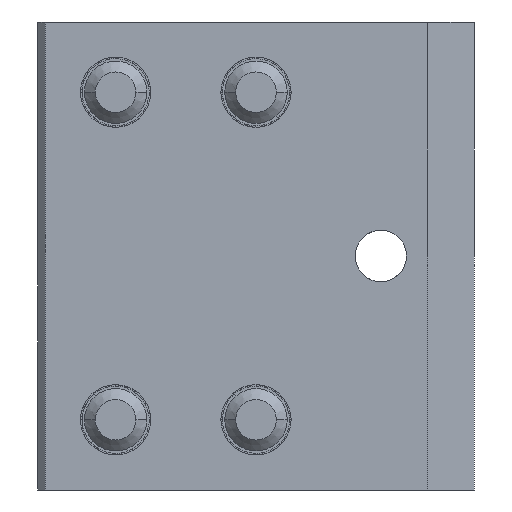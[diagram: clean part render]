
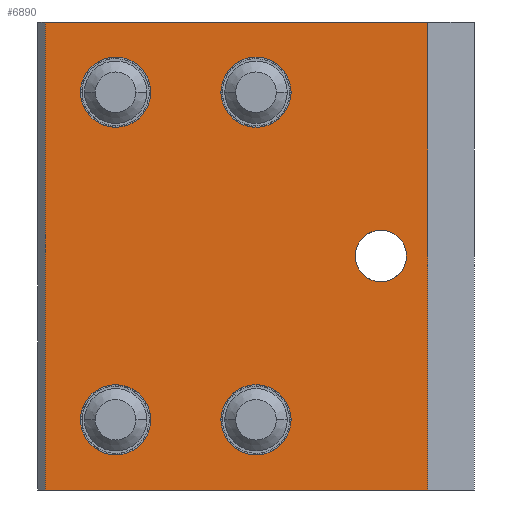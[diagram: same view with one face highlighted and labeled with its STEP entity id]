
A CAD part, front view. The second image highlights one B-rep face of the part: STEP entity #6890.
In plain terms, the highlighted planar face has unit normal (0, -1, 0).
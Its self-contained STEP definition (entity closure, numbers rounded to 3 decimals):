
#424 = CARTESIAN_POINT ( 'NONE',  ( -4.012, 4.412, -8.25 ) ) ;
#521 = EDGE_CURVE ( 'NONE', #16177, #26539, #20379, .T. ) ;
#741 = CARTESIAN_POINT ( 'NONE',  ( -13.012, 4.412, -10.5 ) ) ;
#989 = VECTOR ( 'NONE', #16773, 1000. ) ;
#1461 = FACE_OUTER_BOUND ( 'NONE', #7662, .T. ) ;
#1767 = LINE ( 'NONE', #28616, #6606 ) ;
#2053 = AXIS2_PLACEMENT_3D ( 'NONE', #29931, #12635, #2739 ) ;
#2434 = VECTOR ( 'NONE', #26636, 1000. ) ;
#2739 = DIRECTION ( 'NONE',  ( 0., 0., 1. ) ) ;
#2760 = CARTESIAN_POINT ( 'NONE',  ( -5.262, 4.412, 15. ) ) ;
#3073 = EDGE_CURVE ( 'NONE', #26539, #16177, #32415, .T. ) ;
#3137 = ORIENTED_EDGE ( 'NONE', *, *, #12846, .F. ) ;
#3138 = ORIENTED_EDGE ( 'NONE', *, *, #5712, .F. ) ;
#3328 = CIRCLE ( 'NONE', #24666, 1.65 ) ;
#4116 = DIRECTION ( 'NONE',  ( 0., -1., 0. ) ) ;
#4293 = DIRECTION ( 'NONE',  ( 0., -1., 0. ) ) ;
#4385 = ORIENTED_EDGE ( 'NONE', *, *, #3073, .F. ) ;
#4441 = DIRECTION ( 'NONE',  ( -1., 0., 0. ) ) ;
#4518 = DIRECTION ( 'NONE',  ( 0., -1., 0. ) ) ;
#4698 = FACE_BOUND ( 'NONE', #25438, .T. ) ;
#4748 = CIRCLE ( 'NONE', #17714, 1.65 ) ;
#5023 = VERTEX_POINT ( 'NONE', #18123 ) ;
#5552 = PLANE ( 'NONE',  #20057 ) ;
#5593 = CARTESIAN_POINT ( 'NONE',  ( -4.012, 4.412, -10.5 ) ) ;
#5612 = VERTEX_POINT ( 'NONE', #30831 ) ;
#5659 = DIRECTION ( 'NONE',  ( 0., 0., 1. ) ) ;
#5712 = EDGE_CURVE ( 'NONE', #11701, #42996, #27907, .T. ) ;
#5811 = VERTEX_POINT ( 'NONE', #15185 ) ;
#6606 = VECTOR ( 'NONE', #4441, 1000. ) ;
#6890 = ADVANCED_FACE ( 'NONE', ( #8465, #4698, #16484, #22297, #10592, #1461 ), #5552, .F. ) ;
#7204 = ORIENTED_EDGE ( 'NONE', *, *, #38247, .F. ) ;
#7611 = CARTESIAN_POINT ( 'NONE',  ( 3.988, 4.412, 0. ) ) ;
#7662 = EDGE_LOOP ( 'NONE', ( #7204, #33577, #3138, #12469 ) ) ;
#7849 = LINE ( 'NONE', #2760, #2434 ) ;
#8465 = FACE_BOUND ( 'NONE', #33952, .T. ) ;
#8782 = DIRECTION ( 'NONE',  ( 0., -1., 0. ) ) ;
#9031 = CIRCLE ( 'NONE', #16195, 2.25 ) ;
#9344 = ORIENTED_EDGE ( 'NONE', *, *, #12627, .F. ) ;
#10592 = FACE_BOUND ( 'NONE', #17199, .T. ) ;
#10685 = EDGE_CURVE ( 'NONE', #5612, #14721, #4748, .T. ) ;
#10707 = AXIS2_PLACEMENT_3D ( 'NONE', #5593, #8782, #16685 ) ;
#10708 = ORIENTED_EDGE ( 'NONE', *, *, #521, .F. ) ;
#11180 = CARTESIAN_POINT ( 'NONE',  ( -4.012, 4.412, 10.5 ) ) ;
#11184 = ORIENTED_EDGE ( 'NONE', *, *, #24859, .F. ) ;
#11701 = VERTEX_POINT ( 'NONE', #18261 ) ;
#12469 = ORIENTED_EDGE ( 'NONE', *, *, #17749, .F. ) ;
#12588 = EDGE_CURVE ( 'NONE', #17701, #37404, #23651, .T. ) ;
#12627 = EDGE_CURVE ( 'NONE', #16527, #5811, #42352, .T. ) ;
#12635 = DIRECTION ( 'NONE',  ( 0., -1., 0. ) ) ;
#12763 = ORIENTED_EDGE ( 'NONE', *, *, #32670, .F. ) ;
#12846 = EDGE_CURVE ( 'NONE', #14721, #5612, #3328, .T. ) ;
#12953 = DIRECTION ( 'NONE',  ( 0., -1., 0. ) ) ;
#14595 = DIRECTION ( 'NONE',  ( 0., 0., -1. ) ) ;
#14721 = VERTEX_POINT ( 'NONE', #22080 ) ;
#14745 = DIRECTION ( 'NONE',  ( 0., 0., -1. ) ) ;
#15185 = CARTESIAN_POINT ( 'NONE',  ( -13.012, 4.412, 8.25 ) ) ;
#15857 = CARTESIAN_POINT ( 'NONE',  ( -13.012, 4.412, -12.75 ) ) ;
#16177 = VERTEX_POINT ( 'NONE', #424 ) ;
#16195 = AXIS2_PLACEMENT_3D ( 'NONE', #11180, #31576, #18174 ) ;
#16431 = DIRECTION ( 'NONE',  ( 0., 0., 1. ) ) ;
#16484 = FACE_BOUND ( 'NONE', #41698, .T. ) ;
#16527 = VERTEX_POINT ( 'NONE', #23131 ) ;
#16685 = DIRECTION ( 'NONE',  ( 0., 0., 1. ) ) ;
#16773 = DIRECTION ( 'NONE',  ( 0., 0., 1. ) ) ;
#17199 = EDGE_LOOP ( 'NONE', ( #9344, #26082 ) ) ;
#17350 = CARTESIAN_POINT ( 'NONE',  ( -17.512, 4.412, 0. ) ) ;
#17701 = VERTEX_POINT ( 'NONE', #43271 ) ;
#17714 = AXIS2_PLACEMENT_3D ( 'NONE', #7611, #4293, #41807 ) ;
#17749 = EDGE_CURVE ( 'NONE', #5023, #11701, #7849, .T. ) ;
#17977 = DIRECTION ( 'NONE',  ( 0., 0., 1. ) ) ;
#18123 = CARTESIAN_POINT ( 'NONE',  ( -17.512, 4.412, 15. ) ) ;
#18174 = DIRECTION ( 'NONE',  ( 0., 0., 1. ) ) ;
#18261 = CARTESIAN_POINT ( 'NONE',  ( 6.988, 4.412, 15. ) ) ;
#19109 = AXIS2_PLACEMENT_3D ( 'NONE', #24941, #4518, #17977 ) ;
#19377 = EDGE_CURVE ( 'NONE', #42996, #31885, #1767, .T. ) ;
#19565 = CARTESIAN_POINT ( 'NONE',  ( -4.012, 4.412, 12.75 ) ) ;
#19688 = CARTESIAN_POINT ( 'NONE',  ( -4.012, 4.412, -10.5 ) ) ;
#19692 = DIRECTION ( 'NONE',  ( 0., -1., 0. ) ) ;
#20057 = AXIS2_PLACEMENT_3D ( 'NONE', #36282, #36579, #29716 ) ;
#20379 = CIRCLE ( 'NONE', #10707, 2.25 ) ;
#21915 = CARTESIAN_POINT ( 'NONE',  ( -4.012, 4.412, 8.25 ) ) ;
#22080 = CARTESIAN_POINT ( 'NONE',  ( 3.988, 4.412, 1.65 ) ) ;
#22297 = FACE_BOUND ( 'NONE', #37480, .T. ) ;
#23131 = CARTESIAN_POINT ( 'NONE',  ( -13.012, 4.412, 12.75 ) ) ;
#23651 = CIRCLE ( 'NONE', #41329, 2.25 ) ;
#24666 = AXIS2_PLACEMENT_3D ( 'NONE', #34416, #4116, #14595 ) ;
#24853 = CARTESIAN_POINT ( 'NONE',  ( 6.988, 4.412, 0. ) ) ;
#24859 = EDGE_CURVE ( 'NONE', #37404, #17701, #36588, .T. ) ;
#24941 = CARTESIAN_POINT ( 'NONE',  ( -4.012, 4.412, 10.5 ) ) ;
#25438 = EDGE_LOOP ( 'NONE', ( #43406, #11184 ) ) ;
#25514 = CARTESIAN_POINT ( 'NONE',  ( -4.012, 4.412, -12.75 ) ) ;
#25774 = EDGE_CURVE ( 'NONE', #5811, #16527, #29022, .T. ) ;
#26082 = ORIENTED_EDGE ( 'NONE', *, *, #25774, .F. ) ;
#26109 = AXIS2_PLACEMENT_3D ( 'NONE', #33550, #19692, #16431 ) ;
#26539 = VERTEX_POINT ( 'NONE', #25514 ) ;
#26636 = DIRECTION ( 'NONE',  ( 1., 0., 0. ) ) ;
#26654 = DIRECTION ( 'NONE',  ( 0., 0., 1. ) ) ;
#26701 = VERTEX_POINT ( 'NONE', #19565 ) ;
#26821 = CARTESIAN_POINT ( 'NONE',  ( -13.012, 4.412, -10.5 ) ) ;
#27408 = AXIS2_PLACEMENT_3D ( 'NONE', #19688, #12953, #5659 ) ;
#27907 = LINE ( 'NONE', #24853, #42395 ) ;
#27938 = ORIENTED_EDGE ( 'NONE', *, *, #39024, .F. ) ;
#28616 = CARTESIAN_POINT ( 'NONE',  ( -5.262, 4.412, -15. ) ) ;
#29022 = CIRCLE ( 'NONE', #2053, 2.25 ) ;
#29716 = DIRECTION ( 'NONE',  ( 0., 0., 1. ) ) ;
#29931 = CARTESIAN_POINT ( 'NONE',  ( -13.012, 4.412, 10.5 ) ) ;
#30831 = CARTESIAN_POINT ( 'NONE',  ( 3.988, 4.412, -1.65 ) ) ;
#31576 = DIRECTION ( 'NONE',  ( 0., -1., 0. ) ) ;
#31814 = DIRECTION ( 'NONE',  ( 0., -1., 0. ) ) ;
#31885 = VERTEX_POINT ( 'NONE', #41039 ) ;
#31959 = DIRECTION ( 'NONE',  ( 0., 0., 1. ) ) ;
#32365 = AXIS2_PLACEMENT_3D ( 'NONE', #741, #31814, #31959 ) ;
#32415 = CIRCLE ( 'NONE', #27408, 2.25 ) ;
#32670 = EDGE_CURVE ( 'NONE', #26701, #43034, #43817, .T. ) ;
#33550 = CARTESIAN_POINT ( 'NONE',  ( -13.012, 4.412, 10.5 ) ) ;
#33577 = ORIENTED_EDGE ( 'NONE', *, *, #19377, .F. ) ;
#33952 = EDGE_LOOP ( 'NONE', ( #38754, #3137 ) ) ;
#34416 = CARTESIAN_POINT ( 'NONE',  ( 3.988, 4.412, 0. ) ) ;
#36282 = CARTESIAN_POINT ( 'NONE',  ( -17.512, 4.412, -15. ) ) ;
#36388 = DIRECTION ( 'NONE',  ( 0., -1., 0. ) ) ;
#36579 = DIRECTION ( 'NONE',  ( 0., 1., 0. ) ) ;
#36588 = CIRCLE ( 'NONE', #32365, 2.25 ) ;
#37404 = VERTEX_POINT ( 'NONE', #15857 ) ;
#37480 = EDGE_LOOP ( 'NONE', ( #12763, #27938 ) ) ;
#37862 = LINE ( 'NONE', #17350, #989 ) ;
#38247 = EDGE_CURVE ( 'NONE', #31885, #5023, #37862, .T. ) ;
#38754 = ORIENTED_EDGE ( 'NONE', *, *, #10685, .F. ) ;
#39024 = EDGE_CURVE ( 'NONE', #43034, #26701, #9031, .T. ) ;
#41039 = CARTESIAN_POINT ( 'NONE',  ( -17.512, 4.412, -15. ) ) ;
#41329 = AXIS2_PLACEMENT_3D ( 'NONE', #26821, #36388, #26654 ) ;
#41698 = EDGE_LOOP ( 'NONE', ( #10708, #4385 ) ) ;
#41807 = DIRECTION ( 'NONE',  ( 0., 0., -1. ) ) ;
#41823 = CARTESIAN_POINT ( 'NONE',  ( 6.988, 4.412, -15. ) ) ;
#42352 = CIRCLE ( 'NONE', #26109, 2.25 ) ;
#42395 = VECTOR ( 'NONE', #14745, 1000. ) ;
#42996 = VERTEX_POINT ( 'NONE', #41823 ) ;
#43034 = VERTEX_POINT ( 'NONE', #21915 ) ;
#43271 = CARTESIAN_POINT ( 'NONE',  ( -13.012, 4.412, -8.25 ) ) ;
#43406 = ORIENTED_EDGE ( 'NONE', *, *, #12588, .F. ) ;
#43817 = CIRCLE ( 'NONE', #19109, 2.25 ) ;
